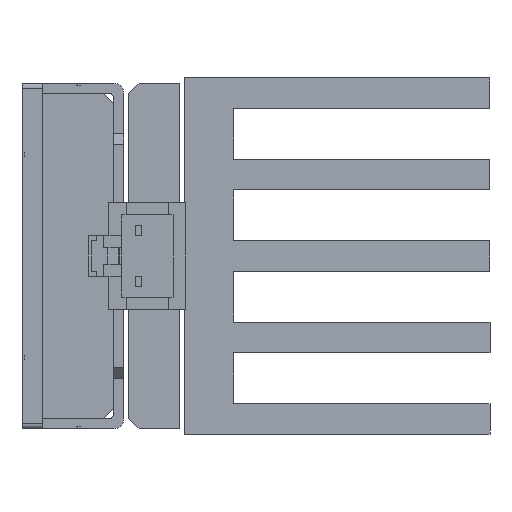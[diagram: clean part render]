
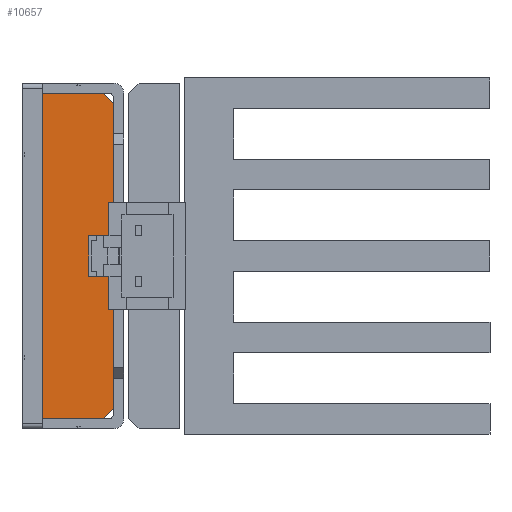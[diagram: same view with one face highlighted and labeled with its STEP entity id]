
A CAD part, left-side view. The second image highlights one B-rep face of the part: STEP entity #10657.
In plain terms, the highlighted planar face has unit normal (-1, 0, 0).
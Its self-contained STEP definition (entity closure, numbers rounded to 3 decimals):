
#1158 = VERTEX_POINT ( 'NONE', #5814 ) ;
#1577 = EDGE_CURVE ( 'NONE', #5404, #1985, #10848, .T. ) ;
#1704 = CARTESIAN_POINT ( 'NONE',  ( -20., 2., -16. ) ) ;
#1985 = VERTEX_POINT ( 'NONE', #1704 ) ;
#2346 = VECTOR ( 'NONE', #10403, 1000. ) ;
#3822 = EDGE_LOOP ( 'NONE', ( #15828, #8772, #7921, #21192, #15639, #8224 ) ) ;
#4312 = CARTESIAN_POINT ( 'NONE',  ( -20., 8., -16. ) ) ;
#4680 = VECTOR ( 'NONE', #9284, 1000. ) ;
#5404 = VERTEX_POINT ( 'NONE', #6008 ) ;
#5412 = DIRECTION ( 'NONE',  ( 0., 0., 1. ) ) ;
#5476 = EDGE_CURVE ( 'NONE', #1985, #13965, #13278, .T. ) ;
#5814 = CARTESIAN_POINT ( 'NONE',  ( -20., 1., 15. ) ) ;
#6008 = CARTESIAN_POINT ( 'NONE',  ( -20., 1., -15. ) ) ;
#6093 = CARTESIAN_POINT ( 'NONE',  ( -20., 2., 16. ) ) ;
#6280 = EDGE_CURVE ( 'NONE', #18390, #12199, #20951, .T. ) ;
#6469 = CARTESIAN_POINT ( 'NONE',  ( -20., 1., 0. ) ) ;
#7921 = ORIENTED_EDGE ( 'NONE', *, *, #10026, .T. ) ;
#8123 = DIRECTION ( 'NONE',  ( -1., 0., 0. ) ) ;
#8149 = VECTOR ( 'NONE', #16213, 1000. ) ;
#8224 = ORIENTED_EDGE ( 'NONE', *, *, #19925, .T. ) ;
#8772 = ORIENTED_EDGE ( 'NONE', *, *, #6280, .T. ) ;
#8987 = CARTESIAN_POINT ( 'NONE',  ( -20., 1., 16. ) ) ;
#9284 = DIRECTION ( 'NONE',  ( 0., -0.707, -0.707 ) ) ;
#10026 = EDGE_CURVE ( 'NONE', #12199, #13965, #14727, .T. ) ;
#10041 = CARTESIAN_POINT ( 'NONE',  ( -20., -2.5, -11.5 ) ) ;
#10400 = LINE ( 'NONE', #12025, #20763 ) ;
#10403 = DIRECTION ( 'NONE',  ( 0., 1., 0. ) ) ;
#10657 = ADVANCED_FACE ( 'NONE', ( #10973 ), #16312, .T. ) ;
#10792 = AXIS2_PLACEMENT_3D ( 'NONE', #6469, #8123, #18062 ) ;
#10848 = LINE ( 'NONE', #10041, #14975 ) ;
#10973 = FACE_OUTER_BOUND ( 'NONE', #3822, .T. ) ;
#11314 = DIRECTION ( 'NONE',  ( 0., 0., -1. ) ) ;
#12025 = CARTESIAN_POINT ( 'NONE',  ( -20., 1., -16. ) ) ;
#12199 = VERTEX_POINT ( 'NONE', #12605 ) ;
#12605 = CARTESIAN_POINT ( 'NONE',  ( -20., 8., 16. ) ) ;
#12852 = CARTESIAN_POINT ( 'NONE',  ( -20., 1., -16. ) ) ;
#13278 = LINE ( 'NONE', #12852, #8149 ) ;
#13965 = VERTEX_POINT ( 'NONE', #4312 ) ;
#14724 = DIRECTION ( 'NONE',  ( 0., 0.707, -0.707 ) ) ;
#14727 = LINE ( 'NONE', #18162, #20683 ) ;
#14975 = VECTOR ( 'NONE', #14724, 1000. ) ;
#15639 = ORIENTED_EDGE ( 'NONE', *, *, #1577, .F. ) ;
#15828 = ORIENTED_EDGE ( 'NONE', *, *, #16255, .F. ) ;
#16213 = DIRECTION ( 'NONE',  ( 0., 1., 0. ) ) ;
#16255 = EDGE_CURVE ( 'NONE', #18390, #1158, #18866, .T. ) ;
#16312 = PLANE ( 'NONE',  #10792 ) ;
#18062 = DIRECTION ( 'NONE',  ( 0., 1., 0. ) ) ;
#18162 = CARTESIAN_POINT ( 'NONE',  ( -20., 8., -16. ) ) ;
#18390 = VERTEX_POINT ( 'NONE', #6093 ) ;
#18865 = CARTESIAN_POINT ( 'NONE',  ( -20., -2.5, 11.5 ) ) ;
#18866 = LINE ( 'NONE', #18865, #4680 ) ;
#19925 = EDGE_CURVE ( 'NONE', #5404, #1158, #10400, .T. ) ;
#20683 = VECTOR ( 'NONE', #11314, 1000. ) ;
#20763 = VECTOR ( 'NONE', #5412, 1000. ) ;
#20951 = LINE ( 'NONE', #8987, #2346 ) ;
#21192 = ORIENTED_EDGE ( 'NONE', *, *, #5476, .F. ) ;
